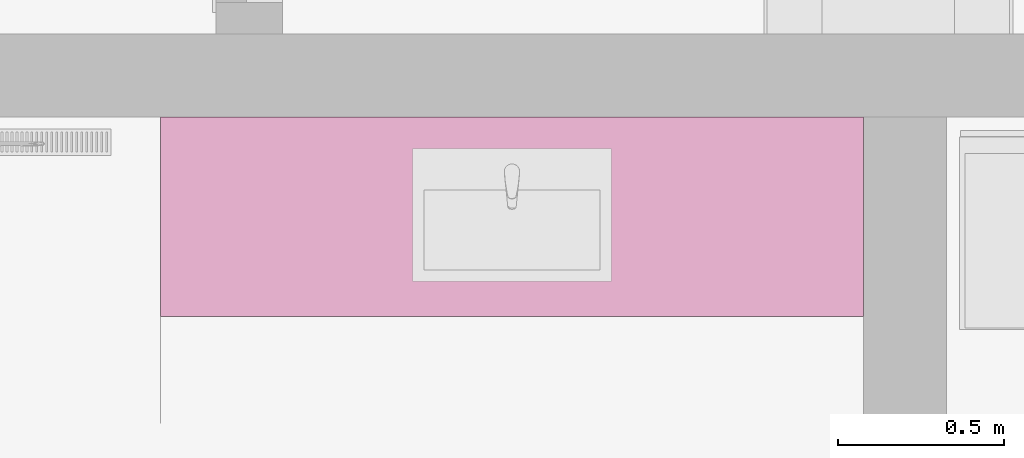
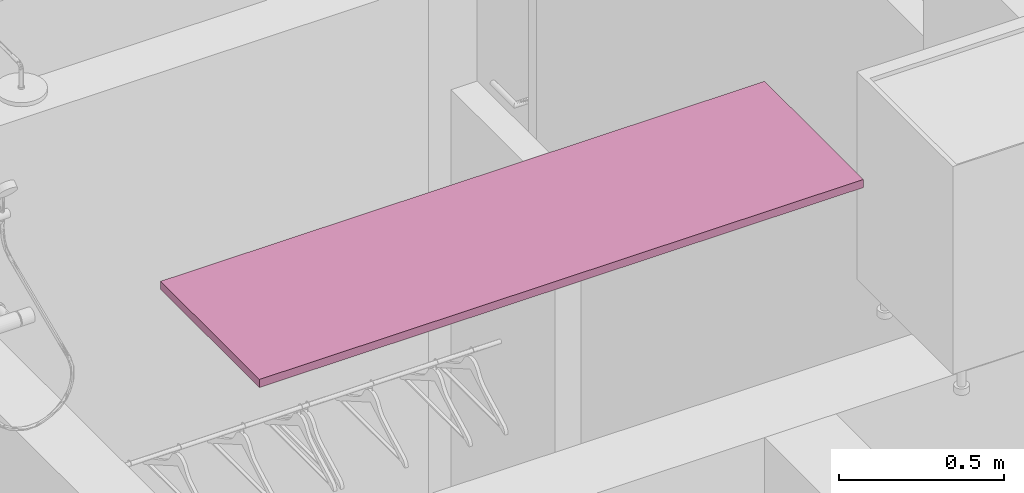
# One storey, part 85 of 125: 1 furnishing.
"""IFC2X3 building model written with IfcOpenShell, lengths in millimetres."""

from ifc_helpers import new_model, entity, si_unit, converted_unit, direction, frame, frame_2d, origin, place, context, subcontext, project, spatial, rectangle, extrude, source, transform, mapped, material, type_object, type_shapes, element, save


model = new_model("IFC2X3")

# Units and contexts
model_context = context("Model", 3, precision=0.01, world=origin(), true_north=direction((6.123233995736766e-17, 1.0)))
plan_context = context("Plan", 3, precision=0.01, world=origin(), true_north=direction((6.123233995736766e-17, 1.0)))
body_context = subcontext(model_context, "Body", "Model", "MODEL_VIEW")
ifc_project = project(units=[si_unit("LENGTHUNIT", "METRE", prefix="MILLI"), converted_unit("PLANEANGLEUNIT", "DEGREE", entity("IfcPlaneAngleMeasure", 0.017453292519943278), si_unit("PLANEANGLEUNIT", "RADIAN"), dimensions=[0, 0, 0, 0, 0, 0, 0]), si_unit("AREAUNIT", "SQUARE_METRE")], contexts=[model_context, plan_context])

# Site, building, storey, space
site_placement = place(None, origin())
site = spatial("IfcSite", under=ifc_project, at=site_placement, Name="Default", CompositionType="ELEMENT")
building_placement = place(site_placement, origin())
building = spatial("IfcBuilding", under=site, at=building_placement, CompositionType="ELEMENT")
storey_placement = place(building_placement, frame((0.0, 0.0, 3125.0)))
storey = spatial("IfcBuildingStorey", under=building, at=storey_placement, Name="2K", CompositionType="ELEMENT", Elevation=3125.0)
space_placement = place(storey_placement, origin())
space = spatial("IfcSpace", under=storey, at=space_placement, Name="2-4.6", CompositionType="ELEMENT", InteriorOrExteriorSpace="INTERNAL")

# Furnishing
ifc_material = material(Name="<Unnamed>")
furniture_type = type_object("IfcFurnitureType", Name="HR_Casework_Work-surface_Generic_Rectangular_v1:Default", AssemblyPlace="NOTDEFINED", material=ifc_material)
shared_shape = source(origin(), body_context, "Body", "SweptSolid", [
    extrude(rectangle(XDim=2116.9935349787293, YDim=600.0, at=frame_2d((9.094947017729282e-13, 0.0), x_axis=(1.0, 0.0))), frame((0.0, 300.0, -2255.0)), (0.0, 0.0, 1.0), 29.999999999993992),
])
type_shapes(furniture_type, [shared_shape])
furnishing_placement = place(space_placement, frame((10841.496767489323, 5799.999959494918, 6295.0)))
element("IfcFurnishingElement", 1, at=furnishing_placement, inside=space, type_object=furniture_type, material=ifc_material, Name="HR_Casework_Work-surface_Generic_Rectangular_v1:Default", ObjectType="HR_Casework_Work-surface_Generic_Rectangular_v1:Default", context=body_context, shape_type="MappedRepresentation", body=[
    mapped(shared_shape, transform((0.0, 0.0, 0.0), scale=1.0)),
])

save(model, "model.ifc")
